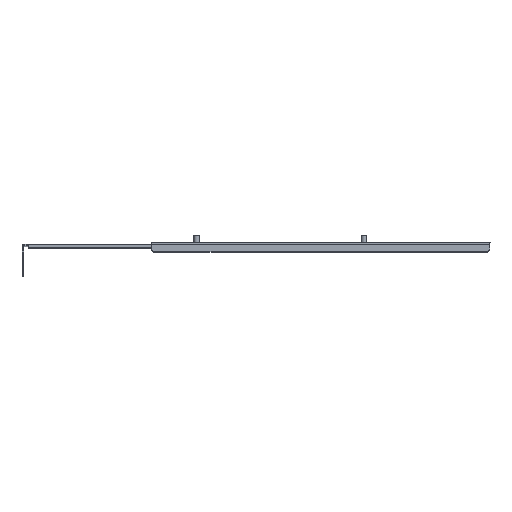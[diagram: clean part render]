
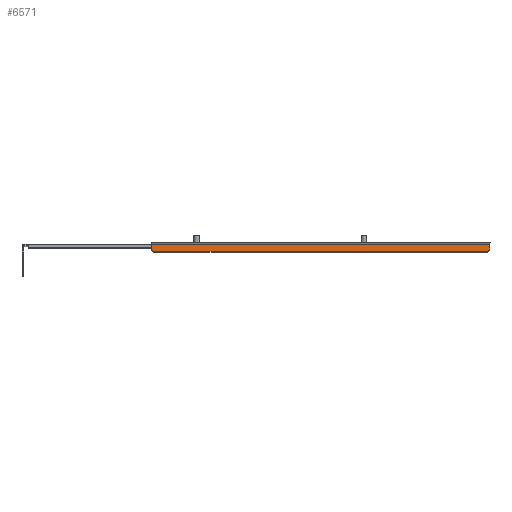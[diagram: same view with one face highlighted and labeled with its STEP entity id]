
A CAD part, top view. The second image highlights one B-rep face of the part: STEP entity #6571.
In plain terms, the highlighted planar face has unit normal (0, 0, 1).
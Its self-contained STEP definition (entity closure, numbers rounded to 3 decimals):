
#349 = CARTESIAN_POINT ( 'NONE',  ( 0., 0.5, 247.25 ) ) ;
#419 = EDGE_CURVE ( 'NONE', #6243, #3140, #3379, .T. ) ;
#445 = FACE_OUTER_BOUND ( 'NONE', #1487, .T. ) ;
#524 = EDGE_CURVE ( 'NONE', #2120, #8476, #7565, .T. ) ;
#623 = VERTEX_POINT ( 'NONE', #7133 ) ;
#654 = VECTOR ( 'NONE', #6002, 1000. ) ;
#792 = CARTESIAN_POINT ( 'NONE',  ( -303.5, 0., 247.25 ) ) ;
#933 = ORIENTED_EDGE ( 'NONE', *, *, #1700, .T. ) ;
#969 = DIRECTION ( 'NONE',  ( 0., -1., 0. ) ) ;
#1070 = ORIENTED_EDGE ( 'NONE', *, *, #5157, .F. ) ;
#1140 = CARTESIAN_POINT ( 'NONE',  ( -303.5, -3., 247.25 ) ) ;
#1285 = LINE ( 'NONE', #4007, #3909 ) ;
#1298 = LINE ( 'NONE', #2724, #6699 ) ;
#1340 = ORIENTED_EDGE ( 'NONE', *, *, #419, .T. ) ;
#1434 = LINE ( 'NONE', #792, #4172 ) ;
#1487 = EDGE_LOOP ( 'NONE', ( #1070, #1340, #2015, #933, #6918, #3793, #5953, #7984 ) ) ;
#1700 = EDGE_CURVE ( 'NONE', #4242, #8476, #6351, .T. ) ;
#1822 = CARTESIAN_POINT ( 'NONE',  ( 0., -5., 247.25 ) ) ;
#1891 = VECTOR ( 'NONE', #6867, 1000. ) ;
#2015 = ORIENTED_EDGE ( 'NONE', *, *, #3837, .F. ) ;
#2120 = VERTEX_POINT ( 'NONE', #349 ) ;
#2341 = CARTESIAN_POINT ( 'NONE',  ( 0., -3., 247.25 ) ) ;
#2373 = CARTESIAN_POINT ( 'NONE',  ( -303.5, 0.5, 247.25 ) ) ;
#2724 = CARTESIAN_POINT ( 'NONE',  ( -303.5, -5., 247.25 ) ) ;
#2771 = CARTESIAN_POINT ( 'NONE',  ( -301.5, -5., 247.25 ) ) ;
#2804 = CARTESIAN_POINT ( 'NONE',  ( -303.5, 1.5, 247.25 ) ) ;
#2923 = EDGE_CURVE ( 'NONE', #2120, #623, #7525, .T. ) ;
#3140 = VERTEX_POINT ( 'NONE', #5349 ) ;
#3166 = DIRECTION ( 'NONE',  ( 0.707, 0.707, 0. ) ) ;
#3307 = VECTOR ( 'NONE', #3166, 1000. ) ;
#3379 = LINE ( 'NONE', #2771, #654 ) ;
#3793 = ORIENTED_EDGE ( 'NONE', *, *, #2923, .T. ) ;
#3837 = EDGE_CURVE ( 'NONE', #4242, #3140, #1298, .T. ) ;
#3909 = VECTOR ( 'NONE', #4604, 1000. ) ;
#4007 = CARTESIAN_POINT ( 'NONE',  ( 0., 3., 247.25 ) ) ;
#4172 = VECTOR ( 'NONE', #6303, 1000. ) ;
#4242 = VERTEX_POINT ( 'NONE', #6753 ) ;
#4604 = DIRECTION ( 'NONE',  ( -1., 0., 0. ) ) ;
#4743 = CARTESIAN_POINT ( 'NONE',  ( 0., -3., 247.25 ) ) ;
#5003 = DIRECTION ( 'NONE',  ( 0., -1., 0. ) ) ;
#5145 = AXIS2_PLACEMENT_3D ( 'NONE', #7129, #8470, #5003 ) ;
#5157 = EDGE_CURVE ( 'NONE', #6243, #7478, #6731, .T. ) ;
#5167 = VECTOR ( 'NONE', #7570, 1000. ) ;
#5349 = CARTESIAN_POINT ( 'NONE',  ( -301.5, -5., 247.25 ) ) ;
#5522 = EDGE_CURVE ( 'NONE', #623, #6838, #1285, .T. ) ;
#5743 = VECTOR ( 'NONE', #969, 1000. ) ;
#5953 = ORIENTED_EDGE ( 'NONE', *, *, #5522, .T. ) ;
#6002 = DIRECTION ( 'NONE',  ( 0.707, -0.707, 0. ) ) ;
#6176 = CARTESIAN_POINT ( 'NONE',  ( 0., 0.5, 247.25 ) ) ;
#6243 = VERTEX_POINT ( 'NONE', #1140 ) ;
#6303 = DIRECTION ( 'NONE',  ( 0., 1., 0. ) ) ;
#6351 = LINE ( 'NONE', #2341, #3307 ) ;
#6424 = EDGE_CURVE ( 'NONE', #7478, #6838, #1434, .T. ) ;
#6571 = ADVANCED_FACE ( 'NONE', ( #445 ), #7741, .F. ) ;
#6683 = DIRECTION ( 'NONE',  ( -1., 0., 0. ) ) ;
#6699 = VECTOR ( 'NONE', #6683, 1000. ) ;
#6731 = LINE ( 'NONE', #2804, #1891 ) ;
#6753 = CARTESIAN_POINT ( 'NONE',  ( -2., -5., 247.25 ) ) ;
#6838 = VERTEX_POINT ( 'NONE', #8204 ) ;
#6867 = DIRECTION ( 'NONE',  ( 0., 1., 0. ) ) ;
#6918 = ORIENTED_EDGE ( 'NONE', *, *, #524, .F. ) ;
#7129 = CARTESIAN_POINT ( 'NONE',  ( 0., 0., 247.25 ) ) ;
#7133 = CARTESIAN_POINT ( 'NONE',  ( 0., 3., 247.25 ) ) ;
#7478 = VERTEX_POINT ( 'NONE', #2373 ) ;
#7525 = LINE ( 'NONE', #6176, #5167 ) ;
#7565 = LINE ( 'NONE', #1822, #5743 ) ;
#7570 = DIRECTION ( 'NONE',  ( 0., 1., 0. ) ) ;
#7741 = PLANE ( 'NONE',  #5145 ) ;
#7984 = ORIENTED_EDGE ( 'NONE', *, *, #6424, .F. ) ;
#8204 = CARTESIAN_POINT ( 'NONE',  ( -303.5, 3., 247.25 ) ) ;
#8470 = DIRECTION ( 'NONE',  ( 0., 0., -1. ) ) ;
#8476 = VERTEX_POINT ( 'NONE', #4743 ) ;
